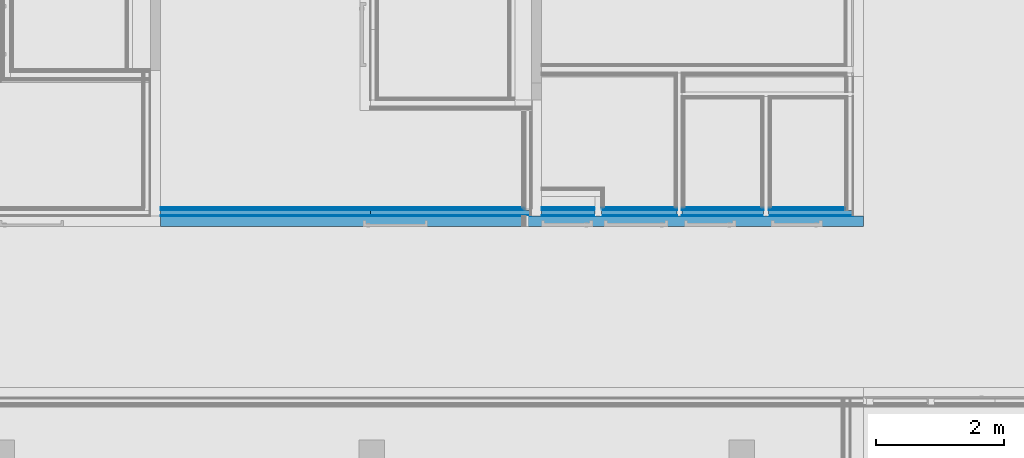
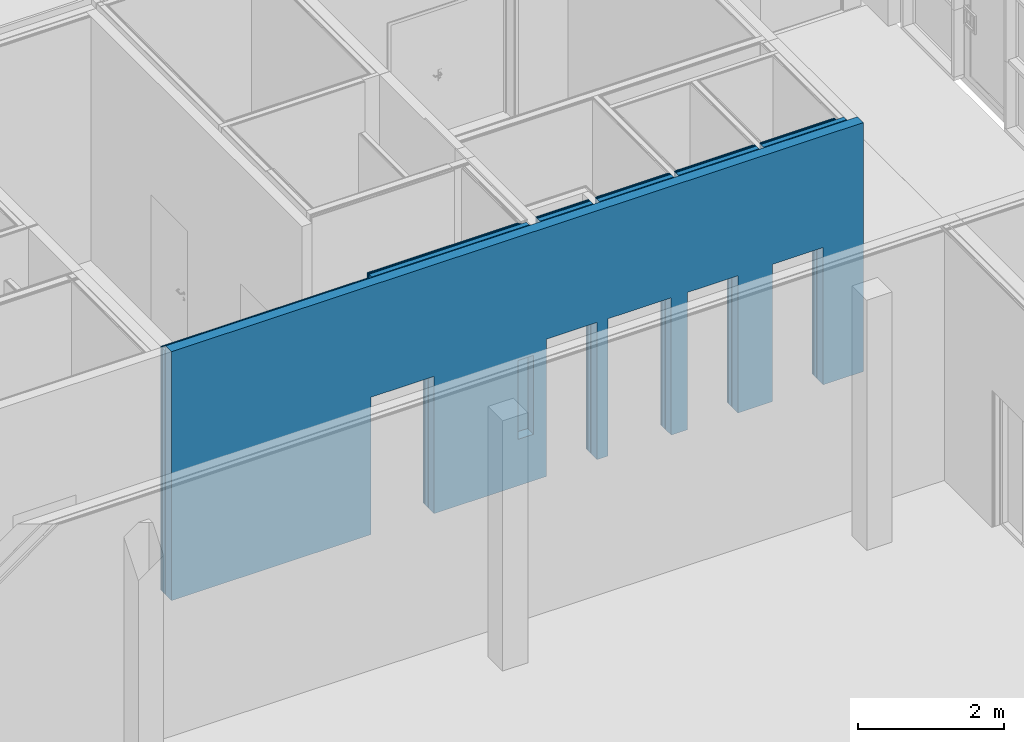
# One storey, part 113 of 260: 7 building element parts, 6 openings, 1 element without a shape of its own.
"""IFC2X3 building model written with IfcOpenShell, lengths in millimetres."""

from ifc_helpers import new_model, entity, si_unit, converted_unit, derived_unit, money_unit, direction, frame, origin_with_axes, place, context, subcontext, project, spatial, faceted_brep, material, type_object, element, aggregate, save


model = new_model("IFC2X3")

# Units and contexts
model_context = context("Model", 3, precision=0.01, world=origin_with_axes(), true_north=direction((0.0, 1.0)))
body_context = subcontext(model_context, "Body", "Model", "MODEL_VIEW")
ifc_project = project(units=[si_unit("LENGTHUNIT", "METRE", prefix="MILLI"), si_unit("AREAUNIT", "SQUARE_METRE"), si_unit("VOLUMEUNIT", "CUBIC_METRE"), converted_unit("PLANEANGLEUNIT", "DEGREE", entity("IfcPlaneAngleMeasure", 0.0174532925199), si_unit("PLANEANGLEUNIT", "RADIAN"), dimensions=[0, 0, 0, 0, 0, 0, 0]), money_unit("EUR"), converted_unit("TIMEUNIT", "Year", entity("IfcTimeMeasure", 31556926.0), si_unit("TIMEUNIT", "SECOND"), dimensions=[0, 0, 1, 0, 0, 0, 0]), si_unit("MASSUNIT", "GRAM", prefix="KILO"), si_unit("THERMODYNAMICTEMPERATUREUNIT", "DEGREE_CELSIUS"), si_unit("LUMINOUSINTENSITYUNIT", "LUMEN"), si_unit("ENERGYUNIT", "JOULE", prefix="MEGA"), derived_unit("THERMALCONDUCTANCEUNIT", [(si_unit("POWERUNIT", "WATT"), 1), (si_unit("LENGTHUNIT", "METRE"), -1), (si_unit("THERMODYNAMICTEMPERATUREUNIT", "KELVIN"), -1)]), derived_unit("SPECIFICHEATCAPACITYUNIT", [(si_unit("ENERGYUNIT", "JOULE"), 1), (si_unit("MASSUNIT", "GRAM", prefix="KILO"), -1), (si_unit("THERMODYNAMICTEMPERATUREUNIT", "KELVIN"), -1)]), derived_unit("MASSDENSITYUNIT", [(si_unit("MASSUNIT", "GRAM", prefix="KILO"), 1), (si_unit("VOLUMEUNIT", "CUBIC_METRE"), -1)])], contexts=[model_context])

# Site, building, storey
site_placement = place(None, origin_with_axes())
site = spatial("IfcSite", under=ifc_project, at=site_placement, Name="Kolde pst 67a", CompositionType="ELEMENT")
building_placement = place(site_placement, origin_with_axes())
building = spatial("IfcBuilding", under=site, at=building_placement, Name="Riigigümnaasium", CompositionType="ELEMENT")
storey_placement = place(building_placement, origin_with_axes())
storey = spatial("IfcBuildingStorey", under=building, at=storey_placement, Name="1. korrus", CompositionType="ELEMENT", Elevation=0.0)

# Wall, openings, building element parts
wall_type = type_object("IfcWallType", Name="SS-CLT-16/1_vill75+krohv 52 dB 300", PredefinedType="NOTDEFINED")
wall_placement = place(storey_placement, frame((31890.0027795, 59349.9979478, 0.0), z_axis=(0.0, 0.0, 1.0), x_axis=(-1.0, 0.0, 0.0)))
wall = element("IfcWall", 1, at=wall_placement, inside=storey, type_object=wall_type, Name="Sisesein")
opening_1_placement = place(wall_placement, frame((1040.02393279, 0.0, 0.0), z_axis=(0.0, 0.0, 1.0), x_axis=(1.0, 0.0, 0.0)))
element("IfcOpeningElement", 2, at=opening_1_placement, cuts=wall, Name="Siseuks", context=body_context, shape_type="Brep", body=[
    faceted_brep([(400.0, -300.0, 2300.0), (400.0, -300.0, 0.0), (400.0, 600.0, 0.0), (400.0, 600.0, 2300.0), (-400.0, -300.0, 2300.0), (-400.0, -300.0, 0.0), (-400.0, 600.0, 0.0), (-400.0, 600.0, 2300.0)], [[[0, 1, 2, 3]], [[0, 4, 5, 1]], [[1, 5, 6, 2]], [[3, 2, 6, 7]], [[4, 0, 3, 7]], [[5, 4, 7, 6]]]),
])
opening_2_placement = place(wall_placement, frame((3545.00349456, 0.0, 0.0), z_axis=(0.0, 0.0, 1.0), x_axis=(1.0, 0.0, 0.0)))
element("IfcOpeningElement", 3, at=opening_2_placement, cuts=wall, Name="Siseuks", context=body_context, shape_type="Brep", body=[
    faceted_brep([(500.0, -300.0, 2300.0), (500.0, -300.0, 0.0), (500.0, 600.0, 0.0), (500.0, 600.0, 2300.0), (-500.0, -300.0, 2300.0), (-500.0, -300.0, 0.0), (-500.0, 600.0, 0.0), (-500.0, 600.0, 2300.0)], [[[0, 1, 2, 3]], [[0, 4, 5, 1]], [[1, 5, 6, 2]], [[3, 2, 6, 7]], [[4, 0, 3, 7]], [[5, 4, 7, 6]]]),
])
opening_3_placement = place(wall_placement, frame((2390.02917936, 0.0, 0.0), z_axis=(0.0, 0.0, 1.0), x_axis=(1.0, 0.0, 0.0)))
element("IfcOpeningElement", 4, at=opening_3_placement, cuts=wall, Name="Siseuks", context=body_context, shape_type="Brep", body=[
    faceted_brep([(400.0, -300.0, 2300.0), (400.0, -300.0, 0.0), (400.0, 600.0, 0.0), (400.0, 600.0, 2300.0), (-400.0, -300.0, 2300.0), (-400.0, -300.0, 0.0), (-400.0, 600.0, 0.0), (-400.0, 600.0, 2300.0)], [[[0, 1, 2, 3]], [[0, 4, 5, 1]], [[1, 5, 6, 2]], [[3, 2, 6, 7]], [[4, 0, 3, 7]], [[5, 4, 7, 6]]]),
])
opening_4_placement = place(wall_placement, frame((4620.00354947, 0.0, 0.0), z_axis=(0.0, 0.0, 1.0), x_axis=(1.0, 0.0, 0.0)))
element("IfcOpeningElement", 5, at=opening_4_placement, cuts=wall, Name="Siseuks", context=body_context, shape_type="Brep", body=[
    faceted_brep([(400.0, -300.0, 2300.0), (400.0, -300.0, 0.0), (400.0, 600.0, 0.0), (400.0, 600.0, 2300.0), (-400.0, -300.0, 2300.0), (-400.0, -300.0, 0.0), (-400.0, 600.0, 0.0), (-400.0, 600.0, 2300.0)], [[[0, 1, 2, 3]], [[0, 4, 5, 1]], [[1, 5, 6, 2]], [[3, 2, 6, 7]], [[4, 0, 3, 7]], [[5, 4, 7, 6]]]),
])
opening_5_placement = place(wall_placement, frame((7301.01602701, 0.0, 0.0), z_axis=(0.0, 0.0, 1.0), x_axis=(1.0, 0.0, 0.0)))
element("IfcOpeningElement", 6, at=opening_5_placement, cuts=wall, Name="Siseuks", context=body_context, shape_type="Brep", body=[
    faceted_brep([(-500.0, 600.0, 2300.0), (-500.0, 600.0, 0.0), (-500.0, -300.0, 0.0), (-500.0, -300.0, 2300.0), (500.0, 600.0, 2300.0), (500.0, 600.0, 0.0), (500.0, -300.0, 0.0), (500.0, -300.0, 2300.0)], [[[0, 1, 2, 3]], [[0, 4, 5, 1]], [[1, 5, 6, 2]], [[3, 2, 6, 7]], [[4, 0, 3, 7]], [[5, 4, 7, 6]]]),
])
opening_6_placement = place(wall_placement, frame((31890.0027795, 59349.9979478, 0.0), z_axis=(0.0, 0.0, 1.0), x_axis=(-1.0, 0.0, 0.0)))
element("IfcOpeningElement", 7, at=opening_6_placement, cuts=wall, Name="Tulekustuti nišš vastavalt SA osale", ObjectType="OPENING", context=body_context, shape_type="Brep", body=[
    faceted_brep([(26414.99923, 59349.9979478, 780.0), (26414.99923, 59349.9979478, 2100.0), (26414.99923, 59509.9979478, 2100.0), (26414.99923, 59509.9979478, 780.0), (26664.99923, 59349.9979478, 780.0), (26664.99923, 59349.9979478, 2100.0), (26664.99923, 59509.9979478, 2100.0), (26664.99923, 59509.9979478, 780.0)], [[[0, 1, 2, 3]], [[0, 4, 5, 1]], [[1, 5, 6, 2]], [[3, 2, 6, 7]], [[4, 0, 3, 7]], [[5, 4, 7, 6]]]),
])
ifc_material_1 = material(Name="_KANDETARIND - CLT ristkihtliimpuit vastavalt EK osale, CLT paigaldusvuugid teibitakse ROTHOBLAAS teibiga")
building_element_part_1_placement = place(wall_placement, origin_with_axes())
building_element_part_1 = element("IfcBuildingElementPart", 8, at=building_element_part_1_placement, material=ifc_material_1, Name="_KANDETARIND - CLT ristkihtliimpuit vastavalt EK osale, CLT paigaldusvuugid teibitakse ROTHOBLAAS teibiga", context=body_context, shape_type="Brep", body=[
    faceted_brep([(7801.01602701, -159.999884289, 2300.0), (7801.01602701, -160.0, 0.0), (10961.5155269, -160.0, 0.0), (10961.5155269, -159.999884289, 4170.0), (7690.00004529, -159.999884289, 4170.0), (0.0, -160.0, 4170.0), (0.0, -160.0, 0.0), (640.023932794, -160.0, 0.0), (640.023932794, -159.999884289, 2300.0), (1440.02393279, -159.999884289, 2300.0), (1440.02393279, -160.0, 0.0), (1990.02917936, -160.0, 0.0), (1990.02917936, -159.999884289, 2300.0), (2790.02917936, -159.999884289, 2300.0), (2790.02917936, -160.0, 0.0), (3045.00349456, -160.0, 0.0), (3045.00349456, -159.999884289, 2300.0), (4045.00349456, -159.999884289, 2300.0), (4045.00349456, -160.0, 0.0), (4220.00354947, -160.0, 0.0), (4220.00354947, -159.999884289, 2300.0), (5020.00354947, -159.999884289, 2300.0), (5020.00354947, -160.0, 0.0), (6801.01602701, -160.0, 0.0), (6801.01602701, -159.999884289, 2300.0), (5475.00354946, -160.0, 2100.0), (5475.00354946, -160.0, 780.0), (5225.00354946, -160.0, 780.0), (5225.00354946, -160.0, 2100.0), (7801.01602701, 0.0, 2300.0), (7801.01602701, 0.0, 0.0), (10961.5155269, 0.0, 0.0), (10961.5155269, 0.0, 4170.0), (0.0, 0.0, 4170.0), (0.0, 0.0, 0.0), (640.023932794, 0.0, 0.0), (640.023932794, 0.0, 2300.0), (1440.02393279, 0.0, 2300.0), (1440.02393279, 0.0, 0.0), (1990.02917936, 0.0, 0.0), (1990.02917936, 0.0, 2300.0), (2790.02917936, 0.0, 2300.0), (2790.02917936, 0.0, 0.0), (3045.00349456, 0.0, 0.0), (3045.00349456, 0.0, 2300.0), (4045.00349456, 0.0, 2300.0), (4045.00349456, 0.0, 0.0), (4220.00354947, 0.0, 0.0), (4220.00354947, 0.0, 2300.0), (5020.00354947, 0.0, 2300.0), (5020.00354947, 0.0, 0.0), (6801.01602701, 0.0, 0.0), (6801.01602701, 0.0, 2300.0), (5475.00354946, 0.0, 780.0), (5475.00354946, 0.0, 2100.0), (5225.00354946, 0.0, 780.0), (5225.00354946, 0.0, 2100.0)], [[[0, 1, 2, 3, 4, 5, 6, 7, 8, 9, 10, 11, 12, 13, 14, 15, 16, 17, 18, 19, 20, 21, 22, 23, 24], [25, 26, 27, 28]], [[1, 0, 29, 30]], [[1, 30, 31, 2]], [[3, 2, 31, 32]], [[4, 3, 32, 33, 5]], [[33, 34, 6, 5]], [[35, 7, 6, 34]], [[8, 7, 35, 36]], [[9, 8, 36, 37]], [[10, 9, 37, 38]], [[10, 38, 39, 11]], [[39, 40, 12, 11]], [[40, 41, 13, 12]], [[41, 42, 14, 13]], [[43, 15, 14, 42]], [[44, 16, 15, 43]], [[45, 17, 16, 44]], [[46, 18, 17, 45]], [[19, 18, 46, 47]], [[19, 47, 48, 20]], [[20, 48, 49, 21]], [[21, 49, 50, 22]], [[51, 23, 22, 50]], [[24, 23, 51, 52]], [[0, 24, 52, 29]], [[53, 26, 25, 54]], [[55, 27, 26, 53]], [[56, 28, 27, 55]], [[54, 25, 28, 56]], [[52, 51, 50, 49, 48, 47, 46, 45, 44, 43, 42, 41, 40, 39, 38, 37, 36, 35, 34, 33, 32, 31, 30, 29], [55, 53, 54, 56]]]),
])
ifc_material_2 = material(Name="_ÕHKVAHE")
building_element_part_2_placement = place(wall_placement, origin_with_axes())
building_element_part_2 = element("IfcBuildingElementPart", 9, at=building_element_part_2_placement, material=ifc_material_2, Name="_ÕHKVAHE", context=body_context, shape_type="Brep", body=[
    faceted_brep([(7801.01602701, -175.0, 2300.0), (7801.01602701, -175.0, 0.0), (10961.5155269, -175.0, 0.0), (10961.5155269, -175.0, 4080.0), (7690.00004529, -175.0, 4080.0), (7690.00004529, -175.0, 4170.0), (5180.00354947, -175.0, 4170.0), (5180.00354947, -175.0, 0.0), (6801.01602701, -175.0, 0.0), (6801.01602701, -175.0, 2300.0), (7801.01602701, -160.0, 2300.0), (7801.01602701, -160.0, 0.0), (10961.5155269, -160.0, 0.0), (10961.5155269, -160.0, 4080.0), (7850.00004529, -160.0, 4080.0), (7690.00004529, -160.0, 4080.0), (7690.00004529, -159.999884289, 4170.0), (5180.00354947, -160.0, 4170.0), (5180.00354947, -160.0, 0.0), (6801.01602701, -160.0, 0.0), (6801.01602701, -160.0, 2300.0)], [[[0, 1, 2, 3, 4, 5, 6, 7, 8, 9]], [[1, 0, 10, 11]], [[1, 11, 12, 2]], [[3, 2, 12, 13]], [[14, 15, 4, 3, 13]], [[5, 4, 15, 16]], [[6, 5, 16, 17]], [[17, 18, 7, 6]], [[19, 8, 7, 18]], [[9, 8, 19, 20]], [[0, 9, 20, 10]], [[20, 19, 18, 17, 16, 15, 14, 13, 12, 11, 10]]]),
    faceted_brep([(1440.02393279, -175.0, 2300.0), (1440.02393279, -175.0, 0.0), (1480.02468135, -175.0, 0.0), (1480.02468135, -175.0, 4170.0), (160.0, -175.0, 4170.0), (160.0, -175.0, 0.0), (640.023932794, -175.0, 0.0), (640.023932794, -175.0, 2300.0), (1440.02393279, -160.0, 2300.0), (1440.02393279, -160.0, 0.0), (1480.02485409, -160.0, 0.0), (1480.02485409, -160.0, 4170.0), (160.0, -160.0, 4170.0), (160.0, -160.0, 0.0), (640.023932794, -160.0, 0.0), (640.023932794, -160.0, 2300.0)], [[[0, 1, 2, 3, 4, 5, 6, 7]], [[1, 0, 8, 9]], [[1, 9, 10, 2]], [[3, 2, 10, 11]], [[4, 3, 11, 12]], [[12, 13, 5, 4]], [[14, 6, 5, 13]], [[7, 6, 14, 15]], [[0, 7, 15, 8]], [[15, 14, 13, 12, 11, 10, 9, 8]]]),
    faceted_brep([(2790.02917936, -175.0, 2300.0), (2790.02917936, -175.0, 0.0), (2830.02917936, -175.0, 0.0), (2830.02917936, -175.0, 4170.0), (1555.02468136, -175.0, 4170.0), (1555.02468136, -175.0, 0.0), (1990.02917936, -175.0, 0.0), (1990.02917936, -175.0, 2300.0), (2790.02917936, -160.0, 2300.0), (2790.02917936, -160.0, 0.0), (2830.02917936, -160.0, 0.0), (2830.02917936, -160.0, 4170.0), (1555.0248541, -160.0, 4170.0), (1555.0248541, -160.0, 0.0), (1990.02917936, -160.0, 0.0), (1990.02917936, -160.0, 2300.0)], [[[0, 1, 2, 3, 4, 5, 6, 7]], [[1, 0, 8, 9]], [[1, 9, 10, 2]], [[3, 2, 10, 11]], [[4, 3, 11, 12]], [[12, 13, 5, 4]], [[14, 6, 5, 13]], [[7, 6, 14, 15]], [[0, 7, 15, 8]], [[15, 14, 13, 12, 11, 10, 9, 8]]]),
    faceted_brep([(4045.00349456, -175.0, 2300.0), (4045.00349456, -175.0, 0.0), (4085.00349456, -175.0, 0.0), (4085.00349456, -175.0, 4170.0), (2905.02917936, -175.0, 4170.0), (2905.02917936, -175.0, 0.0), (3045.00349456, -175.0, 0.0), (3045.00349456, -175.0, 2300.0), (4045.00349456, -160.0, 2300.0), (4045.00349456, -160.0, 0.0), (4085.00349456, -160.0, 0.0), (4085.00349456, -160.0, 4170.0), (2905.02917936, -160.0, 4170.0), (2905.02917936, -160.0, 0.0), (3045.00349456, -160.0, 0.0), (3045.00349456, -160.0, 2300.0)], [[[0, 1, 2, 3, 4, 5, 6, 7]], [[1, 0, 8, 9]], [[1, 9, 10, 2]], [[3, 2, 10, 11]], [[4, 3, 11, 12]], [[12, 13, 5, 4]], [[14, 6, 5, 13]], [[7, 6, 14, 15]], [[0, 7, 15, 8]], [[15, 14, 13, 12, 11, 10, 9, 8]]]),
    faceted_brep([(4220.00354947, -175.0, 2300.0), (5020.00354947, -175.0, 2300.0), (5020.00354947, -175.0, 4170.0), (4185.00349456, -175.0, 4170.0), (4185.00349456, -175.0, 0.0), (4220.00354947, -175.0, 0.0), (4220.00354947, -160.0, 2300.0), (5020.00354947, -160.0, 2300.0), (5020.00354947, -160.0, 4170.0), (4185.00349456, -160.0, 4170.0), (4185.00349456, -160.0, 0.0), (4220.00354947, -160.0, 0.0)], [[[0, 1, 2, 3, 4, 5]], [[1, 0, 6, 7]], [[1, 7, 8, 2]], [[3, 2, 8, 9]], [[9, 10, 4, 3]], [[11, 5, 4, 10]], [[0, 5, 11, 6]], [[6, 11, 10, 9, 8, 7]]]),
])
ifc_material_3 = material(Name="_KARKASS - metallkarkass CW 75/50/06 ja UW 75/40/06, samm 600, vahel mineraalvill, helineeldetegur αw = 1.0,  ISOVER ACOUSTIC 75mm või samaväärne")
building_element_part_3_placement = place(wall_placement, origin_with_axes())
building_element_part_3 = element("IfcBuildingElementPart", 10, at=building_element_part_3_placement, material=ifc_material_3, Name="_KARKASS - metallkarkass CW 75/50/06 ja UW 75/40/06, samm 600, vahel mineraalvill, helineeldetegur αw = 1.0,  ISOVER ACOUSTIC 75mm või samaväärne", context=body_context, shape_type="Brep", body=[
    faceted_brep([(7801.01602701, -250.0, 2300.0), (7801.01602701, -250.0, 0.0), (10961.5155269, -250.0, 0.0), (10961.5155269, -250.0, 4080.0), (7690.00004529, -250.0, 4080.0), (7690.00004529, -250.0, 4170.0), (5195.00354947, -250.0, 4170.0), (5195.00354947, -250.0, 0.0), (6801.01602701, -250.0, 0.0), (6801.01602701, -250.0, 2300.0), (7801.01602701, -175.0, 2300.0), (7801.01602701, -175.0, 0.0), (10961.5155269, -175.0, 0.0), (10961.5155269, -175.0, 4080.0), (7690.00004529, -175.0, 4080.0), (7690.00004529, -175.0, 4170.0), (5195.00354947, -175.0, 4170.0), (5195.00354947, -175.0, 0.0), (6801.01602701, -175.0, 0.0), (6801.01602701, -175.0, 2300.0)], [[[0, 1, 2, 3, 4, 5, 6, 7, 8, 9]], [[1, 0, 10, 11]], [[1, 11, 12, 2]], [[3, 2, 12, 13]], [[13, 14, 4, 3]], [[5, 4, 14, 15]], [[6, 5, 15, 16]], [[16, 17, 7, 6]], [[18, 8, 7, 17]], [[9, 8, 18, 19]], [[0, 9, 19, 10]], [[19, 18, 17, 16, 15, 14, 13, 12, 11, 10]]]),
    faceted_brep([(1440.02393279, -250.0, 2300.0), (1440.02393279, -250.0, 0.0), (1480.02381766, -250.0, 0.0), (1480.02381766, -250.0, 4170.0), (170.0, -250.0, 4170.0), (170.0, -250.0, 0.0), (640.023932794, -250.0, 0.0), (640.023932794, -250.0, 2300.0), (1440.02393279, -175.0, 2300.0), (1440.02393279, -175.0, 0.0), (1480.02468135, -175.0, 0.0), (1480.02468135, -175.0, 4170.0), (170.0, -175.0, 4170.0), (170.0, -175.0, 0.0), (640.023932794, -175.0, 0.0), (640.023932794, -175.0, 2300.0)], [[[0, 1, 2, 3, 4, 5, 6, 7]], [[1, 0, 8, 9]], [[1, 9, 10, 2]], [[3, 2, 10, 11]], [[4, 3, 11, 12]], [[12, 13, 5, 4]], [[14, 6, 5, 13]], [[7, 6, 14, 15]], [[0, 7, 15, 8]], [[15, 14, 13, 12, 11, 10, 9, 8]]]),
    faceted_brep([(2790.02917936, -250.0, 2300.0), (2790.02917936, -250.0, 0.0), (2830.02917936, -250.0, 0.0), (2830.02917936, -250.0, 4170.0), (1555.02381766, -250.0, 4170.0), (1555.02381766, -250.0, 0.0), (1990.02917936, -250.0, 0.0), (1990.02917936, -250.0, 2300.0), (2790.02917936, -175.0, 2300.0), (2790.02917936, -175.0, 0.0), (2830.02917936, -175.0, 0.0), (2830.02917936, -175.0, 4170.0), (1555.02468136, -175.0, 4170.0), (1555.02468136, -175.0, 0.0), (1990.02917936, -175.0, 0.0), (1990.02917936, -175.0, 2300.0)], [[[0, 1, 2, 3, 4, 5, 6, 7]], [[1, 0, 8, 9]], [[1, 9, 10, 2]], [[3, 2, 10, 11]], [[4, 3, 11, 12]], [[12, 13, 5, 4]], [[14, 6, 5, 13]], [[7, 6, 14, 15]], [[0, 7, 15, 8]], [[15, 14, 13, 12, 11, 10, 9, 8]]]),
    faceted_brep([(4045.00349456, -250.0, 2300.0), (4045.00349456, -250.0, 0.0), (4085.00349456, -250.0, 0.0), (4085.00349456, -250.0, 4170.0), (2905.02917936, -250.0, 4170.0), (2905.02917936, -250.0, 0.0), (3045.00349456, -250.0, 0.0), (3045.00349456, -250.0, 2300.0), (4045.00349456, -175.0, 2300.0), (4045.00349456, -175.0, 0.0), (4085.00349456, -175.0, 0.0), (4085.00349456, -175.0, 4170.0), (2905.02917936, -175.0, 4170.0), (2905.02917936, -175.0, 0.0), (3045.00349456, -175.0, 0.0), (3045.00349456, -175.0, 2300.0)], [[[0, 1, 2, 3, 4, 5, 6, 7]], [[1, 0, 8, 9]], [[1, 9, 10, 2]], [[3, 2, 10, 11]], [[4, 3, 11, 12]], [[12, 13, 5, 4]], [[14, 6, 5, 13]], [[7, 6, 14, 15]], [[0, 7, 15, 8]], [[15, 14, 13, 12, 11, 10, 9, 8]]]),
    faceted_brep([(4220.00354947, -250.0, 2300.0), (5020.00354947, -250.0, 2300.0), (5020.00354947, -250.0, 4170.0), (4185.00349456, -250.0, 4170.0), (4185.00349456, -250.0, 0.0), (4220.00354947, -250.0, 0.0), (4220.00354947, -175.0, 2300.0), (5020.00354947, -175.0, 2300.0), (5020.00354947, -175.0, 4170.0), (4185.00349456, -175.0, 4170.0), (4185.00349456, -175.0, 0.0), (4220.00354947, -175.0, 0.0)], [[[0, 1, 2, 3, 4, 5]], [[1, 0, 6, 7]], [[1, 7, 8, 2]], [[3, 2, 8, 9]], [[9, 10, 4, 3]], [[11, 5, 4, 10]], [[0, 5, 11, 6]], [[6, 11, 10, 9, 8, 7]]]),
])
ifc_material_4 = material(Name="_PLAATMATERJAL - OSB3 plaat")
building_element_part_4_placement = place(wall_placement, origin_with_axes())
building_element_part_4 = element("IfcBuildingElementPart", 11, at=building_element_part_4_placement, material=ifc_material_4, Name="_PLAATMATERJAL - OSB3 plaat", context=body_context, shape_type="Brep", body=[
    faceted_brep([(7801.01602701, -260.0, 2300.0), (7801.01602701, -260.0, 0.0), (10961.5155269, -260.0, 0.0), (10961.5155269, -260.0, 4080.0), (7690.00004529, -260.0, 4080.0), (7690.00004529, -260.0, 4170.0), (5270.00354947, -260.0, 4170.0), (5270.00354947, -260.0, 0.0), (6801.01602701, -260.0, 0.0), (6801.01602701, -260.0, 2300.0), (7801.01602701, -250.0, 2300.0), (7801.01602701, -250.0, 0.0), (10961.5155269, -250.0, 0.0), (10961.5155269, -250.0, 4080.0), (7690.00004529, -250.0, 4080.0), (7690.00004529, -250.0, 4170.0), (5270.00354947, -250.0, 4170.0), (5270.00354947, -250.0, 0.0), (6801.01602701, -250.0, 0.0), (6801.01602701, -250.0, 2300.0)], [[[0, 1, 2, 3, 4, 5, 6, 7, 8, 9]], [[1, 0, 10, 11]], [[1, 11, 12, 2]], [[3, 2, 12, 13]], [[13, 14, 4, 3]], [[5, 4, 14, 15]], [[6, 5, 15, 16]], [[16, 17, 7, 6]], [[18, 8, 7, 17]], [[9, 8, 18, 19]], [[0, 9, 19, 10]], [[19, 18, 17, 16, 15, 14, 13, 12, 11, 10]]]),
    faceted_brep([(1440.02393279, -260.0, 2300.0), (1440.02393279, -260.0, 0.0), (1480.0237025, -260.0, 0.0), (1480.0237025, -260.0, 4170.0), (285.0, -260.0, 4170.0), (285.0, -260.0, 0.0), (640.023932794, -260.0, 0.0), (640.023932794, -260.0, 2300.0), (1440.02393279, -250.0, 2300.0), (1440.02393279, -250.0, 0.0), (1480.02381766, -250.0, 0.0), (1480.02381766, -250.0, 4170.0), (285.0, -250.0, 4170.0), (285.0, -250.0, 0.0), (640.023932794, -250.0, 0.0), (640.023932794, -250.0, 2300.0)], [[[0, 1, 2, 3, 4, 5, 6, 7]], [[1, 0, 8, 9]], [[1, 9, 10, 2]], [[3, 2, 10, 11]], [[4, 3, 11, 12]], [[12, 13, 5, 4]], [[14, 6, 5, 13]], [[7, 6, 14, 15]], [[0, 7, 15, 8]], [[15, 14, 13, 12, 11, 10, 9, 8]]]),
    faceted_brep([(2790.02917936, -260.0, 2300.0), (2790.02917936, -260.0, 0.0), (2830.02917936, -260.0, 0.0), (2830.02917936, -260.0, 4170.0), (1555.0237025, -260.0, 4170.0), (1555.0237025, -260.0, 0.0), (1990.02917936, -260.0, 0.0), (1990.02917936, -260.0, 2300.0), (2790.02917936, -250.0, 2300.0), (2790.02917936, -250.0, 0.0), (2830.02917936, -250.0, 0.0), (2830.02917936, -250.0, 4170.0), (1555.02381766, -250.0, 4170.0), (1555.02381766, -250.0, 0.0), (1990.02917936, -250.0, 0.0), (1990.02917936, -250.0, 2300.0)], [[[0, 1, 2, 3, 4, 5, 6, 7]], [[1, 0, 8, 9]], [[1, 9, 10, 2]], [[3, 2, 10, 11]], [[4, 3, 11, 12]], [[12, 13, 5, 4]], [[14, 6, 5, 13]], [[7, 6, 14, 15]], [[0, 7, 15, 8]], [[15, 14, 13, 12, 11, 10, 9, 8]]]),
    faceted_brep([(4045.00349456, -260.0, 2300.0), (4045.00349456, -260.0, 0.0), (4085.00349456, -260.0, 0.0), (4085.00349456, -260.0, 4170.0), (2905.02917936, -260.0, 4170.0), (2905.02917936, -260.0, 0.0), (3045.00349456, -260.0, 0.0), (3045.00349456, -260.0, 2300.0), (4045.00349456, -250.0, 2300.0), (4045.00349456, -250.0, 0.0), (4085.00349456, -250.0, 0.0), (4085.00349456, -250.0, 4170.0), (2905.02917936, -250.0, 4170.0), (2905.02917936, -250.0, 0.0), (3045.00349456, -250.0, 0.0), (3045.00349456, -250.0, 2300.0)], [[[0, 1, 2, 3, 4, 5, 6, 7]], [[1, 0, 8, 9]], [[1, 9, 10, 2]], [[3, 2, 10, 11]], [[4, 3, 11, 12]], [[12, 13, 5, 4]], [[14, 6, 5, 13]], [[7, 6, 14, 15]], [[0, 7, 15, 8]], [[15, 14, 13, 12, 11, 10, 9, 8]]]),
    faceted_brep([(4220.00354947, -260.0, 2300.0), (5020.00354947, -260.0, 2300.0), (5020.00354947, -260.0, 4170.0), (4185.00349456, -260.0, 4170.0), (4185.00349456, -260.0, 0.0), (4220.00354947, -260.0, 0.0), (4220.00354947, -250.0, 2300.0), (5020.00354947, -250.0, 2300.0), (5020.00354947, -250.0, 4170.0), (4185.00349456, -250.0, 4170.0), (4185.00349456, -250.0, 0.0), (4220.00354947, -250.0, 0.0)], [[[0, 1, 2, 3, 4, 5]], [[1, 0, 6, 7]], [[1, 7, 8, 2]], [[3, 2, 8, 9]], [[9, 10, 4, 3]], [[11, 5, 4, 10]], [[0, 5, 11, 6]], [[6, 11, 10, 9, 8, 7]]]),
])
ifc_material_5 = material(Name="_PLAATMATERJAL - tuletõkkekipsplaat, Knauf Red GKF või samaväärne")
building_element_part_5_placement = place(wall_placement, origin_with_axes())
building_element_part_5 = element("IfcBuildingElementPart", 12, at=building_element_part_5_placement, material=ifc_material_5, Name="_PLAATMATERJAL - tuletõkkekipsplaat, Knauf Red GKF või samaväärne", context=body_context, shape_type="Brep", body=[
    faceted_brep([(7801.01602701, -275.0, 2300.0), (7801.01602701, -275.0, 0.0), (10961.5155269, -275.0, 0.0), (10961.5155269, -275.0, 4080.0), (7690.00004529, -275.0, 4080.0), (7690.00004529, -275.0, 4170.0), (5280.00354947, -275.0, 4170.0), (5280.00354947, -275.0, 0.0), (6801.01602701, -275.0, 0.0), (6801.01602701, -275.0, 2300.0), (7801.01602701, -260.0, 2300.0), (7801.01602701, -260.0, 0.0), (10961.5155269, -260.0, 0.0), (10961.5155269, -260.0, 4080.0), (7690.00004529, -260.0, 4080.0), (7690.00004529, -260.0, 4170.0), (5280.00354947, -260.0, 4170.0), (5280.00354947, -260.0, 0.0), (6801.01602701, -260.0, 0.0), (6801.01602701, -260.0, 2300.0)], [[[0, 1, 2, 3, 4, 5, 6, 7, 8, 9]], [[1, 0, 10, 11]], [[1, 11, 12, 2]], [[3, 2, 12, 13]], [[13, 14, 4, 3]], [[5, 4, 14, 15]], [[6, 5, 15, 16]], [[16, 17, 7, 6]], [[18, 8, 7, 17]], [[9, 8, 18, 19]], [[0, 9, 19, 10]], [[19, 18, 17, 16, 15, 14, 13, 12, 11, 10]]]),
    faceted_brep([(1440.02393279, -275.0, 2300.0), (1440.02393279, -275.0, 0.0), (1480.02352976, -275.0, 0.0), (1480.02352976, -275.0, 4170.0), (285.0, -275.0, 4170.0), (285.0, -275.0, 0.0), (640.023932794, -275.0, 0.0), (640.023932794, -275.0, 2300.0), (1440.02393279, -260.0, 2300.0), (1440.02393279, -260.0, 0.0), (1480.0237025, -260.0, 0.0), (1480.0237025, -260.0, 4170.0), (285.0, -260.0, 4170.0), (285.0, -260.0, 0.0), (640.023932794, -260.0, 0.0), (640.023932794, -260.0, 2300.0)], [[[0, 1, 2, 3, 4, 5, 6, 7]], [[1, 0, 8, 9]], [[1, 9, 10, 2]], [[3, 2, 10, 11]], [[4, 3, 11, 12]], [[12, 13, 5, 4]], [[14, 6, 5, 13]], [[7, 6, 14, 15]], [[0, 7, 15, 8]], [[15, 14, 13, 12, 11, 10, 9, 8]]]),
    faceted_brep([(2790.02917936, -275.0, 2300.0), (2790.02917936, -275.0, 0.0), (2830.02917936, -275.0, 0.0), (2830.02917936, -275.0, 4170.0), (1555.02352976, -275.0, 4170.0), (1555.02352976, -275.0, 0.0), (1990.02917936, -275.0, 0.0), (1990.02917936, -275.0, 2300.0), (2790.02917936, -260.0, 2300.0), (2790.02917936, -260.0, 0.0), (2830.02917936, -260.0, 0.0), (2830.02917936, -260.0, 4170.0), (1555.0237025, -260.0, 4170.0), (1555.0237025, -260.0, 0.0), (1990.02917936, -260.0, 0.0), (1990.02917936, -260.0, 2300.0)], [[[0, 1, 2, 3, 4, 5, 6, 7]], [[1, 0, 8, 9]], [[1, 9, 10, 2]], [[3, 2, 10, 11]], [[4, 3, 11, 12]], [[12, 13, 5, 4]], [[14, 6, 5, 13]], [[7, 6, 14, 15]], [[0, 7, 15, 8]], [[15, 14, 13, 12, 11, 10, 9, 8]]]),
    faceted_brep([(4045.00349456, -275.0, 2300.0), (4045.00349456, -275.0, 0.0), (4085.00349456, -275.0, 0.0), (4085.00349456, -275.0, 4170.0), (2905.02917936, -275.0, 4170.0), (2905.02917936, -275.0, 0.0), (3045.00349456, -275.0, 0.0), (3045.00349456, -275.0, 2300.0), (4045.00349456, -260.0, 2300.0), (4045.00349456, -260.0, 0.0), (4085.00349456, -260.0, 0.0), (4085.00349456, -260.0, 4170.0), (2905.02917936, -260.0, 4170.0), (2905.02917936, -260.0, 0.0), (3045.00349456, -260.0, 0.0), (3045.00349456, -260.0, 2300.0)], [[[0, 1, 2, 3, 4, 5, 6, 7]], [[1, 0, 8, 9]], [[1, 9, 10, 2]], [[3, 2, 10, 11]], [[4, 3, 11, 12]], [[12, 13, 5, 4]], [[14, 6, 5, 13]], [[7, 6, 14, 15]], [[0, 7, 15, 8]], [[15, 14, 13, 12, 11, 10, 9, 8]]]),
    faceted_brep([(4220.00354947, -275.0, 2300.0), (5020.00354947, -275.0, 2300.0), (5020.00354947, -275.0, 4170.0), (4185.00349456, -275.0, 4170.0), (4185.00349456, -275.0, 0.0), (4220.00354947, -275.0, 0.0), (4220.00354947, -260.0, 2300.0), (5020.00354947, -260.0, 2300.0), (5020.00354947, -260.0, 4170.0), (4185.00349456, -260.0, 4170.0), (4185.00349456, -260.0, 0.0), (4220.00354947, -260.0, 0.0)], [[[0, 1, 2, 3, 4, 5]], [[1, 0, 6, 7]], [[1, 7, 8, 2]], [[3, 2, 8, 9]], [[9, 10, 4, 3]], [[11, 5, 4, 10]], [[0, 5, 11, 6]], [[6, 11, 10, 9, 8, 7]]]),
])
building_element_part_6_placement = place(wall_placement, origin_with_axes())
building_element_part_6 = element("IfcBuildingElementPart", 13, at=building_element_part_6_placement, material=ifc_material_5, Name="_PLAATMATERJAL - tuletõkkekipsplaat, Knauf Red GKF või samaväärne", context=body_context, shape_type="Brep", body=[
    faceted_brep([(7801.01602701, -290.0, 2300.0), (7801.01602701, -290.0, 0.0), (10961.5155269, -290.0, 0.0), (10961.5155269, -290.0, 4080.0), (7690.00004529, -290.0, 4080.0), (7690.00004529, -290.0, 4170.0), (5295.00354947, -290.0, 4170.0), (5295.00354947, -290.0, 0.0), (6801.01602701, -290.0, 0.0), (6801.01602701, -290.0, 2300.0), (7801.01602701, -275.0, 2300.0), (7801.01602701, -275.0, 0.0), (10961.5155269, -275.0, 0.0), (10961.5155269, -275.0, 4080.0), (7690.00004529, -275.0, 4080.0), (7690.00004529, -275.0, 4170.0), (5295.00354947, -275.0, 4170.0), (5295.00354947, -275.0, 0.0), (6801.01602701, -275.0, 0.0), (6801.01602701, -275.0, 2300.0)], [[[0, 1, 2, 3, 4, 5, 6, 7, 8, 9]], [[1, 0, 10, 11]], [[1, 11, 12, 2]], [[3, 2, 12, 13]], [[13, 14, 4, 3]], [[5, 4, 14, 15]], [[6, 5, 15, 16]], [[16, 17, 7, 6]], [[18, 8, 7, 17]], [[9, 8, 18, 19]], [[0, 9, 19, 10]], [[19, 18, 17, 16, 15, 14, 13, 12, 11, 10]]]),
    faceted_brep([(1440.02393279, -290.0, 2300.0), (1440.02393279, -290.0, 0.0), (1480.02335702, -290.0, 0.0), (1480.02335702, -290.0, 4170.0), (285.0, -290.0, 4170.0), (285.0, -290.0, 0.0), (640.023932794, -290.0, 0.0), (640.023932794, -290.0, 2300.0), (1440.02393279, -275.0, 2300.0), (1440.02393279, -275.0, 0.0), (1480.02352976, -275.0, 0.0), (1480.02352976, -275.0, 4170.0), (285.0, -275.0, 4170.0), (285.0, -275.0, 0.0), (640.023932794, -275.0, 0.0), (640.023932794, -275.0, 2300.0)], [[[0, 1, 2, 3, 4, 5, 6, 7]], [[1, 0, 8, 9]], [[1, 9, 10, 2]], [[3, 2, 10, 11]], [[4, 3, 11, 12]], [[12, 13, 5, 4]], [[14, 6, 5, 13]], [[7, 6, 14, 15]], [[0, 7, 15, 8]], [[15, 14, 13, 12, 11, 10, 9, 8]]]),
    faceted_brep([(2790.02917936, -290.0, 2300.0), (2790.02917936, -290.0, 0.0), (2830.02917936, -290.0, 0.0), (2830.02917936, -290.0, 4170.0), (1555.02335702, -290.0, 4170.0), (1555.02335702, -290.0, 0.0), (1990.02917936, -290.0, 0.0), (1990.02917936, -290.0, 2300.0), (2790.02917936, -275.0, 2300.0), (2790.02917936, -275.0, 0.0), (2830.02917936, -275.0, 0.0), (2830.02917936, -275.0, 4170.0), (1555.02352976, -275.0, 4170.0), (1555.02352976, -275.0, 0.0), (1990.02917936, -275.0, 0.0), (1990.02917936, -275.0, 2300.0)], [[[0, 1, 2, 3, 4, 5, 6, 7]], [[1, 0, 8, 9]], [[1, 9, 10, 2]], [[3, 2, 10, 11]], [[4, 3, 11, 12]], [[12, 13, 5, 4]], [[14, 6, 5, 13]], [[7, 6, 14, 15]], [[0, 7, 15, 8]], [[15, 14, 13, 12, 11, 10, 9, 8]]]),
    faceted_brep([(4045.00349456, -290.0, 2300.0), (4045.00349456, -290.0, 0.0), (4085.00349456, -290.0, 0.0), (4085.00349456, -290.0, 4170.0), (2905.02917936, -290.0, 4170.0), (2905.02917936, -290.0, 0.0), (3045.00349456, -290.0, 0.0), (3045.00349456, -290.0, 2300.0), (4045.00349456, -275.0, 2300.0), (4045.00349456, -275.0, 0.0), (4085.00349456, -275.0, 0.0), (4085.00349456, -275.0, 4170.0), (2905.02917936, -275.0, 4170.0), (2905.02917936, -275.0, 0.0), (3045.00349456, -275.0, 0.0), (3045.00349456, -275.0, 2300.0)], [[[0, 1, 2, 3, 4, 5, 6, 7]], [[1, 0, 8, 9]], [[1, 9, 10, 2]], [[3, 2, 10, 11]], [[4, 3, 11, 12]], [[12, 13, 5, 4]], [[14, 6, 5, 13]], [[7, 6, 14, 15]], [[0, 7, 15, 8]], [[15, 14, 13, 12, 11, 10, 9, 8]]]),
    faceted_brep([(4220.00354947, -290.0, 2300.0), (5020.00354947, -290.0, 2300.0), (5020.00354947, -290.0, 4170.0), (4185.00349456, -290.0, 4170.0), (4185.00349456, -290.0, 0.0), (4220.00354947, -290.0, 0.0), (4220.00354947, -275.0, 2300.0), (5020.00354947, -275.0, 2300.0), (5020.00354947, -275.0, 4170.0), (4185.00349456, -275.0, 4170.0), (4185.00349456, -275.0, 0.0), (4220.00354947, -275.0, 0.0)], [[[0, 1, 2, 3, 4, 5]], [[1, 0, 6, 7]], [[1, 7, 8, 2]], [[3, 2, 8, 9]], [[9, 10, 4, 3]], [[11, 5, 4, 10]], [[0, 5, 11, 6]], [[6, 11, 10, 9, 8, 7]]]),
])
ifc_material_6 = material(Name="_VIIMISTLUSKIHT - viimistlus vastavalt SA osale")
building_element_part_7_placement = place(wall_placement, origin_with_axes())
building_element_part_7 = element("IfcBuildingElementPart", 14, at=building_element_part_7_placement, material=ifc_material_6, Name="_VIIMISTLUSKIHT - viimistlus vastavalt SA osale", context=body_context, shape_type="Brep", body=[
    faceted_brep([(7801.01602701, -300.0, 2300.0), (7801.01602701, -300.0, 0.0), (10961.5155269, -300.0, 0.0), (10961.5155269, -300.0, 4080.0), (7690.00004529, -300.0, 4080.0), (7690.00004529, -300.0, 4170.0), (5310.00354947, -300.0, 4170.0), (5310.00354947, -300.0, 0.0), (6801.01602701, -300.0, 0.0), (6801.01602701, -300.0, 2300.0), (7801.01602701, -290.0, 2300.0), (7801.01602701, -290.0, 0.0), (10961.5155269, -290.0, 0.0), (10961.5155269, -290.0, 4080.0), (7690.00004529, -290.0, 4080.0), (7690.00004529, -290.0, 4170.0), (5310.00354947, -290.0, 4170.0), (5310.00354947, -290.0, 0.0), (6801.01602701, -290.0, 0.0), (6801.01602701, -290.0, 2300.0)], [[[0, 1, 2, 3, 4, 5, 6, 7, 8, 9]], [[1, 0, 10, 11]], [[1, 11, 12, 2]], [[3, 2, 12, 13]], [[13, 14, 4, 3]], [[5, 4, 14, 15]], [[6, 5, 15, 16]], [[16, 17, 7, 6]], [[18, 8, 7, 17]], [[9, 8, 18, 19]], [[0, 9, 19, 10]], [[19, 18, 17, 16, 15, 14, 13, 12, 11, 10]]]),
    faceted_brep([(1440.02393279, -300.0, 2300.0), (1440.02393279, -300.0, 0.0), (1455.02324186, -300.0, 0.0), (1455.02324186, -300.0, 4170.0), (285.0, -300.0, 4170.0), (285.0, -300.0, 0.0), (640.023932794, -300.0, 0.0), (640.023932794, -300.0, 2300.0), (1440.02393279, -290.0, 2300.0), (1440.02393279, -290.0, 0.0), (1455.02335702, -290.0, 0.0), (1455.02335702, -290.0, 4170.0), (285.0, -290.0, 4170.0), (285.0, -290.0, 0.0), (640.023932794, -290.0, 0.0), (640.023932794, -290.0, 2300.0)], [[[0, 1, 2, 3, 4, 5, 6, 7]], [[1, 0, 8, 9]], [[1, 9, 10, 2]], [[3, 2, 10, 11]], [[4, 3, 11, 12]], [[12, 13, 5, 4]], [[14, 6, 5, 13]], [[7, 6, 14, 15]], [[0, 7, 15, 8]], [[15, 14, 13, 12, 11, 10, 9, 8]]]),
    faceted_brep([(2790.02917936, -300.0, 2300.0), (2790.02917936, -300.0, 0.0), (2805.02917936, -300.0, 0.0), (2805.02917936, -300.0, 4170.0), (1580.02324186, -300.0, 4170.0), (1580.02324186, -300.0, 0.0), (1990.02917936, -300.0, 0.0), (1990.02917936, -300.0, 2300.0), (2790.02917936, -290.0, 2300.0), (2790.02917936, -290.0, 0.0), (2805.02917936, -290.0, 0.0), (2805.02917936, -290.0, 4170.0), (1580.02335702, -290.0, 4170.0), (1580.02335702, -290.0, 0.0), (1990.02917936, -290.0, 0.0), (1990.02917936, -290.0, 2300.0)], [[[0, 1, 2, 3, 4, 5, 6, 7]], [[1, 0, 8, 9]], [[1, 9, 10, 2]], [[3, 2, 10, 11]], [[4, 3, 11, 12]], [[12, 13, 5, 4]], [[14, 6, 5, 13]], [[7, 6, 14, 15]], [[0, 7, 15, 8]], [[15, 14, 13, 12, 11, 10, 9, 8]]]),
    faceted_brep([(4045.00349456, -300.0, 2300.0), (4045.00349456, -300.0, 0.0), (4060.00349456, -300.0, 0.0), (4060.00349456, -300.0, 4170.0), (2930.02917936, -300.0, 4170.0), (2930.02917936, -300.0, 0.0), (3045.00349456, -300.0, 0.0), (3045.00349456, -300.0, 2300.0), (4045.00349456, -290.0, 2300.0), (4045.00349456, -290.0, 0.0), (4060.00349456, -290.0, 0.0), (4060.00349456, -290.0, 4170.0), (2930.02917936, -290.0, 4170.0), (2930.02917936, -290.0, 0.0), (3045.00349456, -290.0, 0.0), (3045.00349456, -290.0, 2300.0)], [[[0, 1, 2, 3, 4, 5, 6, 7]], [[1, 0, 8, 9]], [[1, 9, 10, 2]], [[3, 2, 10, 11]], [[4, 3, 11, 12]], [[12, 13, 5, 4]], [[14, 6, 5, 13]], [[7, 6, 14, 15]], [[0, 7, 15, 8]], [[15, 14, 13, 12, 11, 10, 9, 8]]]),
    faceted_brep([(4220.00354947, -300.0, 2300.0), (5020.00354947, -300.0, 2300.0), (5020.00354947, -300.0, 4170.0), (4185.00349456, -300.0, 4170.0), (4185.00349456, -300.0, 0.0), (4220.00354947, -300.0, 0.0), (4220.00354947, -290.0, 2300.0), (5020.00354947, -290.0, 2300.0), (5020.00354947, -290.0, 4170.0), (4185.00349456, -290.0, 4170.0), (4185.00349456, -290.0, 0.0), (4220.00354947, -290.0, 0.0)], [[[0, 1, 2, 3, 4, 5]], [[1, 0, 6, 7]], [[1, 7, 8, 2]], [[3, 2, 8, 9]], [[9, 10, 4, 3]], [[11, 5, 4, 10]], [[0, 5, 11, 6]], [[6, 11, 10, 9, 8, 7]]]),
])
aggregate(wall, [building_element_part_1, building_element_part_2, building_element_part_3, building_element_part_4, building_element_part_5, building_element_part_6, building_element_part_7])

save(model, "model.ifc")
